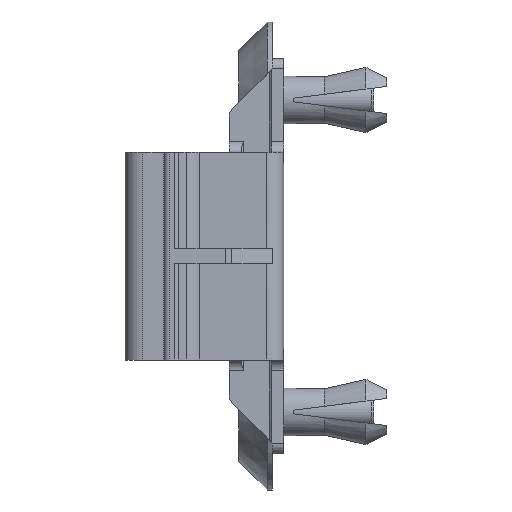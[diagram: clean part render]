
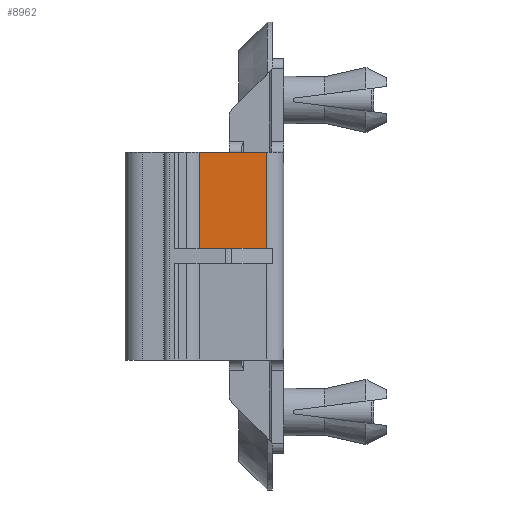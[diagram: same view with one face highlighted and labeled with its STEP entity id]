
A CAD part, left-side view. The second image highlights one B-rep face of the part: STEP entity #8962.
In plain terms, the highlighted planar face has unit normal (-1, 0, 0).
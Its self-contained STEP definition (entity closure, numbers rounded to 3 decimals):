
#325 = FACE_OUTER_BOUND ( 'NONE', #1078, .T. ) ;
#695 = ORIENTED_EDGE ( 'NONE', *, *, #8653, .T. ) ;
#704 = ORIENTED_EDGE ( 'NONE', *, *, #8654, .F. ) ;
#751 = ORIENTED_EDGE ( 'NONE', *, *, #4826, .F. ) ;
#753 = ORIENTED_EDGE ( 'NONE', *, *, #4823, .F. ) ;
#1078 = EDGE_LOOP ( 'NONE', ( #695, #704, #751, #753 ) ) ;
#1406 = CARTESIAN_POINT ( 'NONE',  ( -13.55, 2.895, 10. ) ) ;
#1407 = DIRECTION ( 'NONE',  ( 0., -1., 0. ) ) ;
#1418 = CARTESIAN_POINT ( 'NONE',  ( -13.55, -3.55, 10. ) ) ;
#1421 = DIRECTION ( 'NONE',  ( 0., 0., -1. ) ) ;
#2700 = LINE ( 'NONE', #9984, #2706 ) ;
#2702 = LINE ( 'NONE', #9981, #2704 ) ;
#2704 = VECTOR ( 'NONE', #9978, 1000. ) ;
#2706 = VECTOR ( 'NONE', #9989, 1000. ) ;
#3287 = CARTESIAN_POINT ( 'NONE',  ( -13.55, 2.895, 0.75 ) ) ;
#3314 = CARTESIAN_POINT ( 'NONE',  ( -13.55, -3.55, 0.75 ) ) ;
#3378 = CARTESIAN_POINT ( 'NONE',  ( -13.55, 2.895, 10. ) ) ;
#3453 = CARTESIAN_POINT ( 'NONE',  ( -13.55, -3.55, 10. ) ) ;
#4549 = VERTEX_POINT ( 'NONE', #3287 ) ;
#4576 = VERTEX_POINT ( 'NONE', #3314 ) ;
#4640 = VERTEX_POINT ( 'NONE', #3378 ) ;
#4715 = VERTEX_POINT ( 'NONE', #3453 ) ;
#4823 = EDGE_CURVE ( 'NONE', #4640, #4715, #6120, .T. ) ;
#4826 = EDGE_CURVE ( 'NONE', #4715, #4576, #6123, .T. ) ;
#6120 = LINE ( 'NONE', #1406, #6122 ) ;
#6122 = VECTOR ( 'NONE', #1407, 1000. ) ;
#6123 = LINE ( 'NONE', #1418, #6128 ) ;
#6128 = VECTOR ( 'NONE', #1421, 1000. ) ;
#6652 = AXIS2_PLACEMENT_3D ( 'NONE', #6871, #6876, #6877 ) ;
#6869 = PLANE ( 'NONE',  #6652 ) ;
#6871 = CARTESIAN_POINT ( 'NONE',  ( -13.55, 2.895, 10. ) ) ;
#6876 = DIRECTION ( 'NONE',  ( 1., 0., 0. ) ) ;
#6877 = DIRECTION ( 'NONE',  ( 0., 1., 0. ) ) ;
#8653 = EDGE_CURVE ( 'NONE', #4640, #4549, #2702, .T. ) ;
#8654 = EDGE_CURVE ( 'NONE', #4576, #4549, #2700, .T. ) ;
#8962 = ADVANCED_FACE ( 'NONE', ( #325 ), #6869, .F. ) ;
#9978 = DIRECTION ( 'NONE',  ( 0., 0., -1. ) ) ;
#9981 = CARTESIAN_POINT ( 'NONE',  ( -13.55, 2.895, 10. ) ) ;
#9984 = CARTESIAN_POINT ( 'NONE',  ( -13.55, 2.895, 0.75 ) ) ;
#9989 = DIRECTION ( 'NONE',  ( 0., 1., 0. ) ) ;
